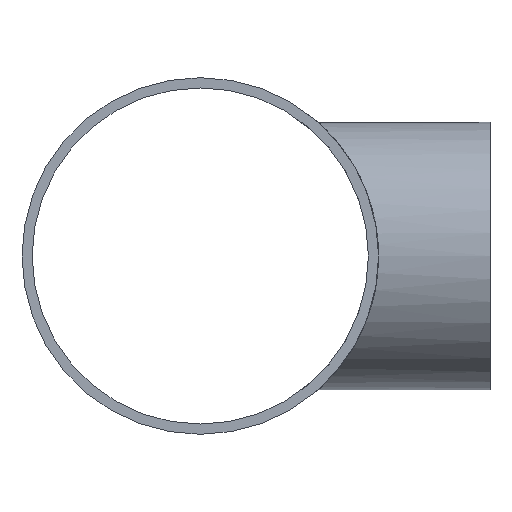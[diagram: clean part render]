
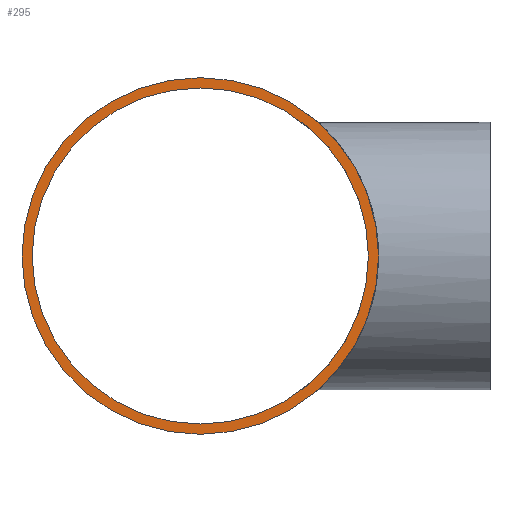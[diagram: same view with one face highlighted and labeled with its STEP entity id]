
A CAD part, left-side view. The second image highlights one B-rep face of the part: STEP entity #295.
In plain terms, the highlighted planar face has unit normal (-1, 0, 0).
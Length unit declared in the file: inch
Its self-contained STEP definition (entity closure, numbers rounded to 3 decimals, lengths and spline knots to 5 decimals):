
#79=FACE_BOUND('',#114,.T.);
#92=FACE_OUTER_BOUND('',#113,.T.);
#113=EDGE_LOOP('',(#242));
#114=EDGE_LOOP('',(#243,#244));
#135=CIRCLE('',#343,11.313);
#136=CIRCLE('',#344,11.313);
#137=CIRCLE('',#346,12.);
#157=VERTEX_POINT('',#626);
#158=VERTEX_POINT('',#628);
#161=VERTEX_POINT('',#742);
#186=EDGE_CURVE('',#158,#157,#135,.T.);
#187=EDGE_CURVE('',#157,#158,#136,.T.);
#190=EDGE_CURVE('',#161,#161,#137,.T.);
#242=ORIENTED_EDGE('',*,*,#190,.T.);
#243=ORIENTED_EDGE('',*,*,#186,.T.);
#244=ORIENTED_EDGE('',*,*,#187,.T.);
#265=PLANE('',#347);
#295=ADVANCED_FACE('',(#92,#79),#265,.F.);
#343=AXIS2_PLACEMENT_3D('',#629,#421,#422);
#344=AXIS2_PLACEMENT_3D('',#630,#423,#424);
#346=AXIS2_PLACEMENT_3D('',#743,#427,#428);
#347=AXIS2_PLACEMENT_3D('',#745,#430,#431);
#421=DIRECTION('center_axis',(1.,0.,0.));
#422=DIRECTION('ref_axis',(0.,-1.,0.));
#423=DIRECTION('center_axis',(1.,0.,0.));
#424=DIRECTION('ref_axis',(0.,-1.,0.));
#427=DIRECTION('center_axis',(-1.,0.,0.));
#428=DIRECTION('ref_axis',(0.,-1.,0.));
#430=DIRECTION('center_axis',(1.,0.,0.));
#431=DIRECTION('ref_axis',(0.,0.,-1.));
#626=CARTESIAN_POINT('',(-20.,11.313,0.));
#628=CARTESIAN_POINT('',(-20.,-11.313,0.));
#629=CARTESIAN_POINT('Origin',(-20.,0.,0.));
#630=CARTESIAN_POINT('Origin',(-20.,0.,0.));
#742=CARTESIAN_POINT('',(-20.,12.,0.));
#743=CARTESIAN_POINT('Origin',(-20.,0.,0.));
#745=CARTESIAN_POINT('Origin',(-20.,0.,0.));
